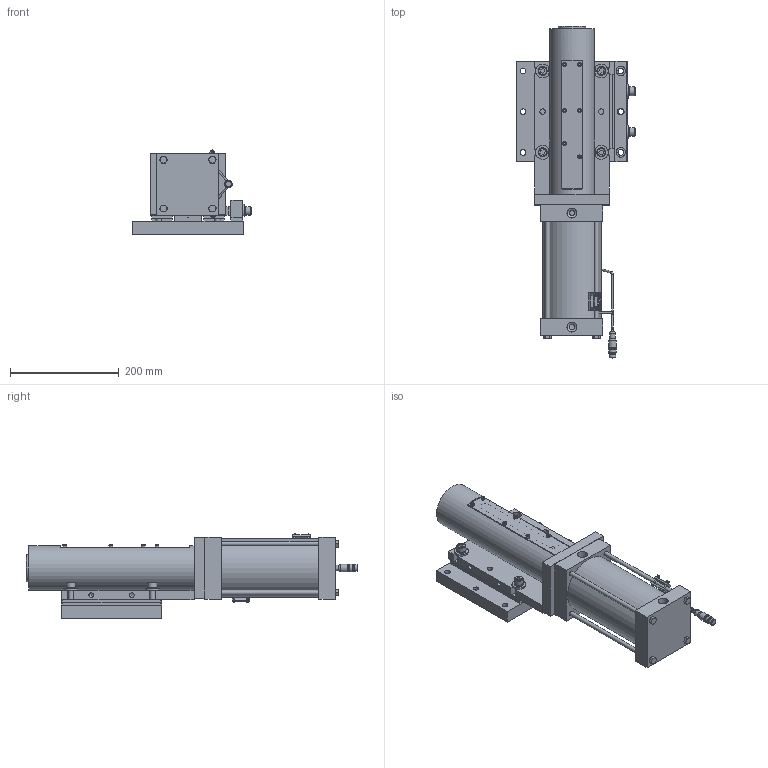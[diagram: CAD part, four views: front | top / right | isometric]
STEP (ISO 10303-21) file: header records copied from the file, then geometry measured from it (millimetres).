
FILE_DESCRIPTION(/* description */ (''),/* implementation_level */ '2;1');
FILE_NAME(/* name */ 'C:\TEMP\HP5 Bull Pins\HP5-P1M4L3000.stp',/* time_stamp */ '2016-01-20T07:18:55-05:00',/* author */ ('klabrecque'),/* organization */ (''),/* preprocessor_version */ 'ST-DEVELOPER v15.2',/* originating_system */ 'Autodesk Inventor 2014',/* authorisation */ '');
FILE_SCHEMA (('AUTOMOTIVE_DESIGN { 1 0 10303 214 3 1 1 }'));
Length unit declared in the file: millimetre
Products named in the file (35): HP5E01; M10X1.5-50 SHCS; S01674E03; S01674E04; S01674E02; 0.313-24X10.000 HEX; HP5E03; S01674_BIM-UNT-Cable-100 STK; S01674_BIM-UNT-Cable2; S01674_CONNECTOR; S01674_SWITCH; M3X0.5-18 SHCS; 3mm_FLAT_WASHER; S01674-100_SWITCH; HP5E12; M4X0.7-10 SHCS; NL10; DSC-D-M10; M6X1-20 SHCS; NL6; HP5E13; HP5E14; HP5E10; HP5E15; HP5E08; HP5E09; HP5E11; M10X1.5-45 SHCS; 12mmX40 DOWEL; Side Weld; Side Weld mid; Side Weld2; End Weld; 6950160; HP5-P1M4L3000
Bounding box: 218.1 x 611.57 x 154.86 mm (x, y, z)
Volume: 4756250.5 mm3; surface area: 970499.7 mm2
Topology: 73 solids, 73 shells, 1247 faces, 2920 edges, 1906 vertices
Faces by surface type: plane 782, cylinder 314, cone 122, bspline 16, torus 13
Full cylindrical faces by diameter (mm): 1.9 x2, 2.459 x4, 2.6 x2, 3 x8, 3.175 x6, 3.2 x10, 3.242 x8, 3.5 x4, 4 x9, 4.134 x9, 4.917 x4, 5 x2, 5.5 x10, 6 x2, 6.35 x2, 6.5 x2, 6.647 x1, 6.782 x4, 7 x14, 7.938 x4, 8.376 x8, 8.5 x8, 9.6 x1, 10 x15, 10.1 x6, 10.2 x1, 10.49 x1, 10.5 x8, 10.7 x6, 10.8 x1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
Entity records: 23904 total; most frequent: CARTESIAN_POINT 4737, DIRECTION 3924, ORIENTED_EDGE 3264, EDGE_CURVE 1631, AXIS2_PLACEMENT_3D 1446, EDGE_LOOP 1252, VERTEX_POINT 1187, LINE 1032
